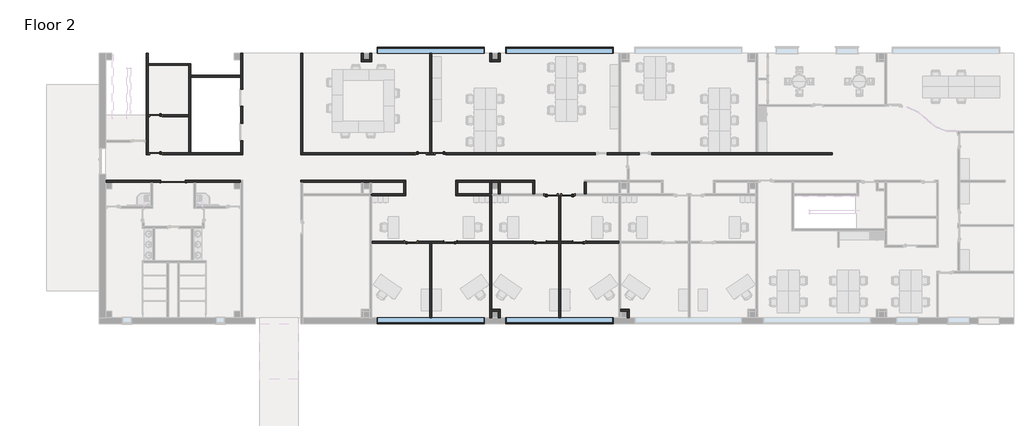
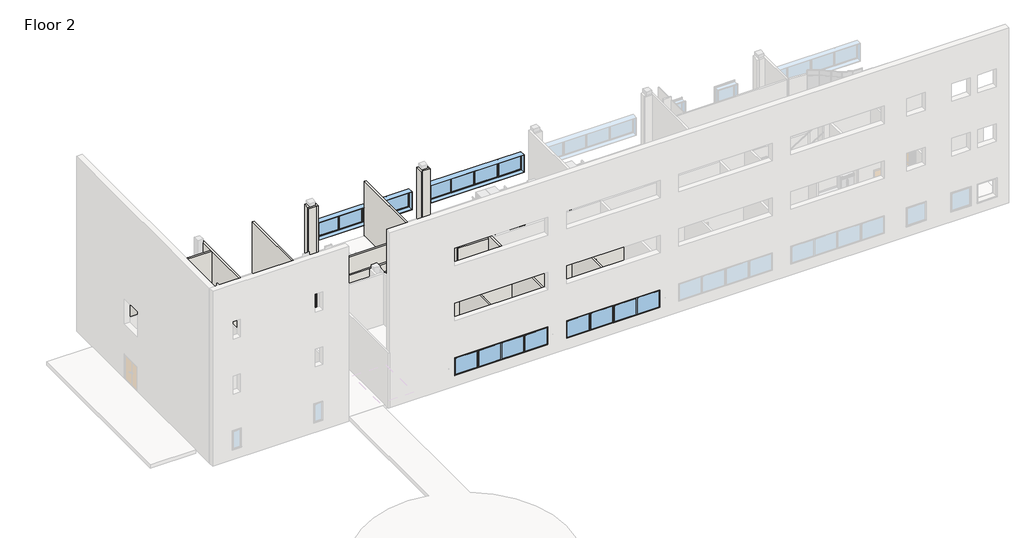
# One storey, part 2 of 7: 38 walls, 11 doors, 4 windows.
"""IFC4 building model written with IfcOpenShell, lengths in millimetres."""

from ifc_helpers import new_model, si_unit, frame, origin, place, context, project, spatial, polyline, outline, extrude, faceted_brep, transform, mapped, element, save
from components import door_f1125a27, door_36f17018, door_a28de425, door_874065d5, door_4cfbdd5f, door_4a7c4c71, window_casement_multi_sash_horizontal_25_x_5ft_0e5d08e3

model = new_model("IFC4")

# Units and contexts
model_context = context("Model", 3, world=origin())
ifc_project = project(units=[si_unit("LENGTHUNIT", "METRE", prefix="MILLI")], contexts=[model_context])

# Site, building, storey
site = spatial("IfcSite", under=ifc_project)
building = spatial("IfcBuilding", under=site)
storey = spatial("IfcBuildingStorey", under=building, Name="Floor 2", Elevation=5486.4)

# Doors
placement = place(None, origin())
door_shape = door_f1125a27(model_context)
element("IfcDoor", 1, ObjectType="Dbl Acting Dbl Glass 1 : 68\" x 84\"", at=placement, inside=storey, context=model_context, shape_type="MappedRepresentation", body=[
    mapped(door_shape, transform((1836.7692024, 48316.361889, 5486.4), x_axis=(-1.0, 0.0, 0.0), y_axis=(0.0, -1.0, 0.0), z_axis=(0.0, 0.0, 1.0))),
])
door_2_shape = door_36f17018(model_context)
element("IfcDoor", 2, ObjectType="Door-Passage-Single-Flush : 36\" x 84\"", at=placement, inside=storey, context=model_context, shape_type="MappedRepresentation", body=[
    mapped(door_2_shape, transform((617.5692024, 50253.111889, 5486.4), x_axis=(-1.0, 0.0, 0.0), y_axis=(0.0, -1.0, 0.0), z_axis=(0.0, 0.0, 1.0))),
])
element("IfcDoor", 3, ObjectType="Door-Passage-Single-Flush : 36\" x 84\"", at=placement, inside=storey, context=model_context, shape_type="MappedRepresentation", body=[
    mapped(door_2_shape, transform((617.5692024, 52945.511889, 5486.4), x_axis=(-1.0, 0.0, 0.0), y_axis=(0.0, -1.0, 0.0), z_axis=(0.0, 0.0, 1.0))),
])
door_3_shape = door_a28de425(model_context)
element("IfcDoor", 4, ObjectType="Door-Passage-Single-Full_Lite : 30\" x 84\"", at=placement, inside=storey, context=model_context, shape_type="MappedRepresentation", body=[
    mapped(door_3_shape, transform((20810.5692024, 50253.111889, 5486.4), x_axis=(-1.0, 0.0, 0.0), y_axis=(0.0, -1.0, 0.0), z_axis=(0.0, 0.0, 1.0))),
])
door_4_shape = door_874065d5(model_context)
element("IfcDoor", 5, ObjectType="Door-Passage-Single-Full_Lite : 30\" x 84\"", at=placement, inside=storey, context=model_context, shape_type="MappedRepresentation", body=[
    mapped(door_4_shape, transform((19438.9692024, 50253.111889, 5486.4), x_axis=(1.0, 0.0, 0.0), y_axis=(0.0, 1.0, 0.0), z_axis=(0.0, 0.0, 1.0))),
])
door_5_shape = door_4cfbdd5f(model_context)
element("IfcDoor", 6, ObjectType="Door-Passage-Single-Full_Lite : 36\" x 84\"", at=placement, inside=storey, context=model_context, shape_type="MappedRepresentation", body=[
    mapped(door_5_shape, transform((27871.7692024, 43985.661889, 5486.4), x_axis=(1.0, 0.0, 0.0), y_axis=(0.0, 1.0, 0.0), z_axis=(0.0, 0.0, 1.0))),
])
element("IfcDoor", 7, ObjectType="Door-Passage-Single-Full_Lite : 36\" x 84\"", at=placement, inside=storey, context=model_context, shape_type="MappedRepresentation", body=[
    mapped(door_5_shape, transform((18727.7692024, 43985.661889, 5486.4), x_axis=(1.0, 0.0, 0.0), y_axis=(0.0, 1.0, 0.0), z_axis=(0.0, 0.0, 1.0))),
])
element("IfcDoor", 8, ObjectType="Door-Passage-Single-Full_Lite : 36\" x 84\"", at=placement, inside=storey, context=model_context, shape_type="MappedRepresentation", body=[
    mapped(door_5_shape, transform((28659.1692024, 47338.461889, 5486.4), x_axis=(1.0, 0.0, 0.0), y_axis=(0.0, 1.0, 0.0), z_axis=(0.0, 0.0, 1.0))),
])
door_6_shape = door_4a7c4c71(model_context)
element("IfcDoor", 9, ObjectType="Door-Passage-Single-Full_Lite : 36\" x 84\"", at=placement, inside=storey, context=model_context, shape_type="MappedRepresentation", body=[
    mapped(door_6_shape, transform((30665.7692024, 43985.661889, 5486.4), x_axis=(-1.0, 0.0, 0.0), y_axis=(0.0, -1.0, 0.0), z_axis=(0.0, 0.0, 1.0))),
])
element("IfcDoor", 10, ObjectType="Door-Passage-Single-Full_Lite : 36\" x 84\"", at=placement, inside=storey, context=model_context, shape_type="MappedRepresentation", body=[
    mapped(door_6_shape, transform((21521.7692024, 43985.661889, 5486.4), x_axis=(-1.0, 0.0, 0.0), y_axis=(0.0, -1.0, 0.0), z_axis=(0.0, 0.0, 1.0))),
])
element("IfcDoor", 11, ObjectType="Door-Passage-Single-Full_Lite : 36\" x 84\"", at=placement, inside=storey, context=model_context, shape_type="MappedRepresentation", body=[
    mapped(door_6_shape, transform((29878.3692024, 47338.461889, 5486.4), x_axis=(-1.0, 0.0, 0.0), y_axis=(0.0, -1.0, 0.0), z_axis=(0.0, 0.0, 1.0))),
])

# Walls
element("IfcWall", 12, ObjectType="Interior - 5 1/2\" Partition (1-hr)", at=placement, inside=storey, context=model_context, shape_type="Brep", body=[
    faceted_brep([(973.1692024, 48360.811889, 7620.0), (973.1692024, 48360.811889, 5486.4), (-2965.7977165, 48360.811889, 5486.4), (-2965.7977165, 48360.811889, 9906.0), (6637.3692024, 48360.811889, 9906.0), (6637.3692024, 48360.811889, 5486.4), (2700.3692024, 48360.811889, 5486.4), (2700.3692024, 48360.811889, 7620.0), (-2965.7977165, 48221.111889, 5486.4), (242.9192024, 48221.111889, 5486.4), (382.6192024, 48221.111889, 5486.4), (973.1692024, 48221.111889, 5486.4), (973.1692024, 48221.111889, 7620.0), (2700.3692024, 48221.111889, 7620.0), (2700.3692024, 48221.111889, 5486.4), (3290.9192024, 48221.111889, 5486.4), (3430.6192024, 48221.111889, 5486.4), (6637.3692024, 48221.111889, 5486.4), (6637.3692024, 48221.111889, 9906.0), (3430.6192024, 48221.111889, 9906.0), (3290.9192024, 48221.111889, 9906.0), (382.6192024, 48221.111889, 9906.0), (242.9192024, 48221.111889, 9906.0), (-2965.7977165, 48221.111889, 9906.0)], [[[0, 1, 2, 3, 4, 5, 6, 7]], [[8, 9, 10, 11, 12, 13, 14, 15, 16, 17, 18, 19, 20, 21, 22, 23]], [[2, 1, 11, 10, 9, 8]], [[6, 5, 17, 16, 15, 14]], [[5, 4, 18, 17]], [[3, 2, 8, 23]], [[4, 3, 23, 22, 21, 20, 19, 18]], [[12, 11, 1, 0]], [[13, 12, 0, 7]], [[14, 13, 7, 6]]]),
])
element("IfcWall", 13, ObjectType="Interior - 5 1/2\" Partition (1-hr)", at=placement, inside=storey, context=model_context, shape_type="Brep", body=[
    faceted_brep([(6637.3692024, 53605.911889, 7645.4), (6637.3692024, 53605.911889, 5486.4), (6637.3692024, 52399.411889, 5486.4), (6637.3692024, 52399.411889, 7645.4), (6637.3692024, 51167.511889, 7645.4), (6637.3692024, 51167.511889, 5486.4), (6637.3692024, 50329.311889, 5486.4), (6637.3692024, 50189.611889, 5486.4), (6637.3692024, 50189.611889, 9906.0), (6637.3692024, 50329.311889, 9906.0), (6637.3692024, 55676.011889, 9906.0), (6637.3692024, 55815.711889, 9906.0), (6637.3692024, 57366.699389, 9906.0), (6637.3692024, 57366.699389, 5486.4), (6637.3692024, 55815.711889, 5486.4), (6637.3692024, 55676.011889, 5486.4), (6637.3692024, 54837.811889, 5486.4), (6637.3692024, 54837.811889, 7645.4), (6777.0692024, 52399.411889, 5486.4), (6777.0692024, 53605.911889, 5486.4), (6777.0692024, 53605.911889, 7645.4), (6777.0692024, 54837.811889, 7645.4), (6777.0692024, 54837.811889, 5486.4), (6777.0692024, 57366.699389, 5486.4), (6777.0692024, 57366.699389, 9906.0), (6777.0692024, 50189.611889, 9906.0), (6777.0692024, 50189.611889, 5486.4), (6777.0692024, 51167.511889, 5486.4), (6777.0692024, 51167.511889, 7645.4), (6777.0692024, 52399.411889, 7645.4)], [[[0, 1, 2, 3, 4, 5, 6, 7, 8, 9, 10, 11, 12, 13, 14, 15, 16, 17]], [[18, 19, 20, 21, 22, 23, 24, 25, 26, 27, 28, 29]], [[7, 6, 5, 27, 26]], [[2, 1, 19, 18]], [[16, 15, 14, 13, 23, 22]], [[8, 7, 26, 25]], [[13, 12, 24, 23]], [[12, 11, 10, 9, 8, 25, 24]], [[28, 27, 5, 4]], [[29, 28, 4, 3]], [[18, 29, 3, 2]], [[20, 19, 1, 0]], [[21, 20, 0, 17]], [[22, 21, 17, 16]]]),
])
element("IfcWall", 14, ObjectType="Interior - 5 1/2\" Partition (1-hr)", at=placement, inside=storey, context=model_context, shape_type="Brep", body=[
    faceted_brep([(109.5692024, 50329.311889, 7721.6), (109.5692024, 50329.311889, 5486.4), (77.8192024, 50329.311889, 5486.4), (-61.8807976, 50329.311889, 5486.4), (-61.8807976, 50329.311889, 9906.0), (77.8192024, 50329.311889, 9906.0), (2954.3692024, 50329.311889, 9906.0), (3094.0692024, 50329.311889, 9906.0), (6637.3692024, 50329.311889, 9906.0), (6637.3692024, 50329.311889, 5486.4), (3094.0692024, 50329.311889, 5486.4), (2954.3692024, 50329.311889, 5486.4), (1125.5692024, 50329.311889, 5486.4), (1125.5692024, 50329.311889, 7721.6), (-61.8807976, 50189.611889, 5486.4), (109.5692024, 50189.611889, 5486.4), (109.5692024, 50189.611889, 7721.6), (1125.5692024, 50189.611889, 7721.6), (1125.5692024, 50189.611889, 5486.4), (6637.3692024, 50189.611889, 5486.4), (6637.3692024, 50189.611889, 9906.0), (-61.8807976, 50189.611889, 9906.0)], [[[0, 1, 2, 3, 4, 5, 6, 7, 8, 9, 10, 11, 12, 13]], [[14, 15, 16, 17, 18, 19, 20, 21]], [[3, 2, 1, 15, 14]], [[12, 11, 10, 9, 19, 18]], [[9, 8, 20, 19]], [[4, 3, 14, 21]], [[8, 7, 6, 5, 4, 21, 20]], [[16, 15, 1, 0]], [[17, 16, 0, 13]], [[18, 17, 13, 12]]]),
])
element("IfcWall", 15, ObjectType="Interior - 5 1/2\" Partition (1-hr)", at=placement, inside=storey, context=model_context, shape_type="Brep", body=[
    faceted_brep([(77.8192024, 50329.311889, 5486.4), (77.8192024, 52882.011889, 5486.4), (77.8192024, 53021.711889, 5486.4), (77.8192024, 56514.211889, 5486.4), (77.8192024, 56653.911889, 5486.4), (77.8192024, 57366.699389, 5486.4), (77.8192024, 57366.699389, 9906.0), (77.8192024, 56653.911889, 9906.0), (77.8192024, 56514.211889, 9906.0), (77.8192024, 53021.711889, 9906.0), (77.8192024, 52882.011889, 9906.0), (77.8192024, 50329.311889, 9906.0), (-61.8807976, 50329.311889, 5486.4), (-61.8807976, 50329.311889, 9906.0), (-61.8807976, 52970.911889, 9906.0), (-61.8807976, 56653.911889, 9906.0), (-61.8807976, 57366.699389, 9906.0), (-61.8807976, 57366.699389, 5486.4), (-61.8807976, 51192.911889, 5486.4), (-61.8807976, 51053.211889, 5486.4)], [[[0, 1, 2, 3, 4, 5, 6, 7, 8, 9, 10, 11]], [[12, 13, 14, 15, 16, 17, 18, 19]], [[5, 4, 3, 2, 1, 0, 12, 19, 18, 17]], [[0, 11, 13, 12]], [[6, 5, 17, 16]], [[7, 6, 16, 15]], [[11, 10, 9, 8, 7, 15, 14, 13]]]),
])
element("IfcWall", 16, ObjectType="Interior - 5 1/2\" Partition (1-hr)", at=placement, inside=storey, context=model_context, shape_type="Brep", body=[
    faceted_brep([(3094.0692024, 50329.311889, 5486.4), (3094.0692024, 55676.011889, 5486.4), (3094.0692024, 55815.711889, 5486.4), (3094.0692024, 56653.911889, 5486.4), (3094.0692024, 56653.911889, 9906.0), (3094.0692024, 55815.711889, 9906.0), (3094.0692024, 55676.011889, 9906.0), (3094.0692024, 50329.311889, 9906.0), (2954.3692024, 50329.311889, 5486.4), (2954.3692024, 50329.311889, 9906.0), (2954.3692024, 52882.011889, 9906.0), (2954.3692024, 53021.711889, 9906.0), (2954.3692024, 56514.211889, 9906.0), (2954.3692024, 56653.911889, 9906.0), (2954.3692024, 56653.911889, 5486.4), (2954.3692024, 56514.211889, 5486.4), (2954.3692024, 53021.711889, 5486.4), (2954.3692024, 52882.011889, 5486.4)], [[[0, 1, 2, 3, 4, 5, 6, 7]], [[8, 9, 10, 11, 12, 13, 14, 15, 16, 17]], [[3, 2, 1, 0, 8, 17, 16, 15, 14]], [[4, 3, 14, 13]], [[0, 7, 9, 8]], [[7, 6, 5, 4, 13, 12, 11, 10, 9]]]),
])
element("IfcWall", 17, ObjectType="Interior - 5 1/2\" Partition (1-hr)", at=placement, inside=storey, context=model_context, shape_type="SweptSolid", body=[
    extrude(outline(polyline([(77.8192024, 56653.911889), (2954.3692024, 56653.911889), (2954.3692024, 56514.211889), (77.8192024, 56514.211889), (77.8192024, 56653.911889)])), frame((0.0, 0.0, 5486.4), z_axis=(0.0, 0.0, 1.0), x_axis=(1.0, 0.0, 0.0)), (0.0, 0.0, 1.0), 4419.6),
])
element("IfcWall", 18, ObjectType="Interior - 5 1/2\" Partition (1-hr)", at=placement, inside=storey, context=model_context, shape_type="SweptSolid", body=[
    extrude(outline(polyline([(6637.3692024, 55676.011889), (3094.0692024, 55676.011889), (3094.0692024, 55815.711889), (6637.3692024, 55815.711889), (6637.3692024, 55676.011889)])), frame((0.0, 0.0, 5486.4), z_axis=(0.0, 0.0, 1.0), x_axis=(1.0, 0.0, 0.0)), (0.0, 0.0, 1.0), 4419.6),
])
element("IfcWall", 19, ObjectType="Interior - 5 1/2\" Partition (1-hr)", at=placement, inside=storey, context=model_context, shape_type="SweptSolid", body=[
    extrude(outline(polyline([(5486.4, 77.8192024), (5486.4, 109.5692024), (7721.6, 109.5692024), (7721.6, 1125.5692024), (5486.4, 1125.5692024), (5486.4, 2954.3692024), (9906.0, 2954.3692024), (9906.0, 77.8192024), (5486.4, 77.8192024)])), frame((0.0, 52882.011889, 0.0), z_axis=(0.0, 1.0, 0.0), x_axis=(0.0, 0.0, 1.0)), (0.0, 0.0, 1.0), 139.7),
])
element("IfcWall", 20, ObjectType="Interior - 5 1/2\" Partition (1-hr)", at=placement, inside=storey, context=model_context, shape_type="Brep", body=[
    faceted_brep([(10910.9192024, 48360.811889, 5486.4), (10910.9192024, 48360.811889, 9906.0), (18359.4692024, 48360.811889, 9906.0), (18359.4692024, 48360.811889, 5486.4), (10910.9192024, 48221.111889, 5486.4), (11050.6192024, 48221.111889, 5486.4), (15184.4692024, 48221.111889, 5486.4), (15324.1692024, 48221.111889, 5486.4), (15781.3692024, 48221.111889, 5486.4), (15921.0692024, 48221.111889, 5486.4), (18219.7692024, 48221.111889, 5486.4), (18359.4692024, 48221.111889, 5486.4), (18359.4692024, 48221.111889, 9906.0), (18219.7692024, 48221.111889, 9906.0), (15921.0692024, 48221.111889, 9906.0), (15781.3692024, 48221.111889, 9906.0), (15324.1692024, 48221.111889, 9906.0), (15184.4692024, 48221.111889, 9906.0), (10910.9192024, 48221.111889, 9906.0)], [[[0, 1, 2, 3]], [[4, 5, 6, 7, 8, 9, 10, 11, 12, 13, 14, 15, 16, 17, 18]], [[11, 10, 9, 8, 7, 6, 5, 4, 0, 3]], [[4, 18, 1, 0]], [[18, 17, 16, 15, 14, 13, 12, 2, 1]], [[12, 11, 3, 2]]]),
])
element("IfcWall", 21, ObjectType="Interior - 5 1/2\" Partition (1-hr)", at=placement, inside=storey, context=model_context, shape_type="Brep", body=[
    faceted_brep([(48623.5692024, 50189.611889, 9906.0), (48623.5692024, 50189.611889, 5486.4), (48623.5692024, 50329.311889, 5486.4), (48623.5692024, 50329.311889, 9906.0), (43353.0692024, 50329.311889, 5486.4), (43213.3692024, 50329.311889, 5486.4), (35802.9192024, 50329.311889, 5486.4), (35802.9192024, 50329.311889, 7721.6), (34939.3192024, 50329.311889, 7721.6), (34939.3192024, 50329.311889, 5486.4), (33612.1692024, 50329.311889, 5486.4), (33472.4692024, 50329.311889, 5486.4), (32672.3692024, 50329.311889, 5486.4), (32672.3692024, 50329.311889, 7721.6), (31808.7692024, 50329.311889, 7721.6), (31808.7692024, 50329.311889, 5486.4), (21242.3692024, 50329.311889, 5486.4), (21242.3692024, 50329.311889, 7721.6), (20378.7692024, 50329.311889, 7721.6), (20378.7692024, 50329.311889, 5486.4), (20194.6192024, 50329.311889, 5486.4), (20054.9192024, 50329.311889, 5486.4), (19870.7692024, 50329.311889, 5486.4), (19870.7692024, 50329.311889, 7721.6), (19007.1692024, 50329.311889, 7721.6), (19007.1692024, 50329.311889, 5486.4), (11050.6192024, 50329.311889, 5486.4), (10910.9192024, 50329.311889, 5486.4), (10910.9192024, 50329.311889, 9906.0), (11050.6192024, 50329.311889, 9906.0), (33472.4692024, 50329.311889, 9906.0), (33612.1692024, 50329.311889, 9906.0), (43213.3692024, 50329.311889, 9906.0), (43353.0692024, 50329.311889, 9906.0), (34209.0692024, 50189.611889, 9906.0), (34069.3692024, 50189.611889, 9906.0), (10910.9192024, 50189.611889, 9906.0), (10910.9192024, 50189.611889, 5486.4), (19007.1692024, 50189.611889, 5486.4), (19007.1692024, 50189.611889, 7721.6), (19870.7692024, 50189.611889, 7721.6), (19870.7692024, 50189.611889, 5486.4), (20378.7692024, 50189.611889, 5486.4), (20378.7692024, 50189.611889, 7721.6), (21242.3692024, 50189.611889, 7721.6), (21242.3692024, 50189.611889, 5486.4), (31808.7692024, 50189.611889, 5486.4), (31808.7692024, 50189.611889, 7721.6), (32672.3692024, 50189.611889, 7721.6), (32672.3692024, 50189.611889, 5486.4), (34069.3692024, 50189.611889, 5486.4), (34209.0692024, 50189.611889, 5486.4), (34939.3192024, 50189.611889, 5486.4), (34939.3192024, 50189.611889, 7721.6), (35802.9192024, 50189.611889, 7721.6), (35802.9192024, 50189.611889, 5486.4)], [[[0, 1, 2, 3]], [[3, 2, 4, 5, 6, 7, 8, 9, 10, 11, 12, 13, 14, 15, 16, 17, 18, 19, 20, 21, 22, 23, 24, 25, 26, 27, 28, 29, 30, 31, 32, 33]], [[1, 0, 34, 35, 36, 37, 38, 39, 40, 41, 42, 43, 44, 45, 46, 47, 48, 49, 50, 51, 52, 53, 54, 55]], [[2, 1, 55, 6, 5, 4]], [[37, 27, 26, 25, 38]], [[9, 52, 51, 50, 49, 12, 11, 10]], [[41, 22, 21, 20, 19, 42]], [[45, 16, 15, 46]], [[37, 36, 28, 27]], [[36, 35, 34, 0, 3, 33, 32, 31, 30, 29, 28]], [[8, 53, 52, 9]], [[53, 8, 7, 54]], [[54, 7, 6, 55]], [[40, 23, 22, 41]], [[23, 40, 39, 24]], [[24, 39, 38, 25]], [[18, 43, 42, 19]], [[43, 18, 17, 44]], [[44, 17, 16, 45]], [[48, 13, 12, 49]], [[13, 48, 47, 14]], [[14, 47, 46, 15]]]),
])
element("IfcWall", 22, ObjectType="Interior - 5 1/2\" Partition (1-hr)", at=placement, inside=storey, context=model_context, shape_type="SweptSolid", body=[
    extrude(outline(polyline([(11050.6192024, 57366.699389), (11050.6192024, 50329.311889), (10910.9192024, 50329.311889), (10910.9192024, 57366.699389), (11050.6192024, 57366.699389)])), frame((0.0, 0.0, 5486.4), z_axis=(0.0, 0.0, 1.0), x_axis=(1.0, 0.0, 0.0)), (0.0, 0.0, 1.0), 4419.6),
])
element("IfcWall", 23, ObjectType="Interior - 5 1/2\" Partition (1-hr)", at=placement, inside=storey, context=model_context, shape_type="Brep", body=[
    faceted_brep([(15781.3692024, 57366.699389, 5486.4), (15781.3692024, 57365.111889, 5486.4), (15781.3692024, 56907.911889, 5486.4), (15781.3692024, 56768.211889, 5486.4), (15781.3692024, 56768.211889, 9906.0), (15781.3692024, 56907.911889, 9906.0), (15781.3692024, 57366.699389, 9906.0), (15921.0692024, 57366.699389, 5486.4), (15921.0692024, 57366.699389, 9906.0), (15921.0692024, 56768.211889, 9906.0), (15921.0692024, 56768.211889, 5486.4)], [[[0, 1, 2, 3, 4, 5, 6]], [[7, 8, 9, 10]], [[3, 2, 1, 0, 7, 10]], [[4, 3, 10, 9]], [[0, 6, 8, 7]], [[6, 5, 4, 9, 8]]]),
])
element("IfcWall", 24, ObjectType="Interior - 5 1/2\" Partition (1-hr)", at=placement, inside=storey, context=model_context, shape_type="Brep", body=[
    faceted_brep([(15781.3692024, 56907.911889, 5486.4), (15324.1692024, 56907.911889, 5486.4), (15184.4692024, 56907.911889, 5486.4), (15184.4692024, 56907.911889, 9906.0), (15324.1692024, 56907.911889, 9906.0), (15781.3692024, 56907.911889, 9906.0), (15781.3692024, 56768.211889, 5486.4), (15781.3692024, 56768.211889, 9906.0), (15184.4692024, 56768.211889, 9906.0), (15184.4692024, 56768.211889, 5486.4)], [[[0, 1, 2, 3, 4, 5]], [[6, 7, 8, 9]], [[2, 1, 0, 6, 9]], [[3, 2, 9, 8]], [[0, 5, 7, 6]], [[5, 4, 3, 8, 7]]]),
])
element("IfcWall", 25, ObjectType="Interior - 5 1/2\" Partition (1-hr)", at=placement, inside=storey, context=model_context, shape_type="Brep", body=[
    faceted_brep([(15324.1692024, 56907.911889, 5486.4), (15324.1692024, 57365.111889, 5486.4), (15324.1692024, 57366.699389, 5486.4), (15324.1692024, 57366.699389, 9906.0), (15324.1692024, 56907.911889, 9906.0), (15184.4692024, 56907.911889, 5486.4), (15184.4692024, 56907.911889, 9906.0), (15184.4692024, 57366.699389, 9906.0), (15184.4692024, 57366.699389, 5486.4)], [[[0, 1, 2, 3, 4]], [[5, 6, 7, 8]], [[2, 1, 0, 5, 8]], [[0, 4, 6, 5]], [[3, 2, 8, 7]], [[4, 3, 7, 6]]]),
])
element("IfcWall", 26, ObjectType="Interior - 5 1/2\" Partition (1-hr)", at=placement, inside=storey, context=model_context, shape_type="Brep", body=[
    faceted_brep([(24468.1692024, 47401.961889, 5486.4), (24468.1692024, 47763.911889, 5486.4), (24468.1692024, 48221.111889, 5486.4), (24468.1692024, 48221.111889, 9906.0), (24468.1692024, 47401.961889, 9906.0), (24328.4692024, 47401.961889, 5486.4), (24328.4692024, 47401.961889, 9906.0), (24328.4692024, 48221.111889, 9906.0), (24328.4692024, 48221.111889, 5486.4), (24398.3192024, 47401.961889, 5486.4), (24398.3192024, 47401.961889, 9906.0)], [[[0, 1, 2, 3, 4]], [[5, 6, 7, 8]], [[2, 1, 0, 9, 5, 8]], [[0, 4, 10, 6, 5, 9]], [[3, 2, 8, 7]], [[4, 3, 7, 6, 10]]]),
])
element("IfcWall", 27, ObjectType="Interior - 5 1/2\" Partition (1-hr)", at=placement, inside=storey, context=model_context, shape_type="Brep", body=[
    faceted_brep([(25065.0692024, 47401.961889, 5486.4), (25065.0692024, 48221.111889, 5486.4), (25065.0692024, 48221.111889, 9906.0), (25065.0692024, 47401.961889, 9906.0), (24925.3692024, 47401.961889, 5486.4), (24925.3692024, 47401.961889, 9906.0), (24925.3692024, 48221.111889, 9906.0), (24925.3692024, 48221.111889, 5486.4), (24925.3692024, 47763.911889, 5486.4)], [[[0, 1, 2, 3]], [[4, 5, 6, 7, 8]], [[1, 0, 4, 8, 7]], [[0, 3, 5, 4]], [[2, 1, 7, 6]], [[3, 2, 6, 5]]]),
])
element("IfcWall", 28, ObjectType="Interior - 5 1/2\" Partition (1-hr)", at=placement, inside=storey, context=model_context, shape_type="SweptSolid", body=[
    extrude(outline(polyline([(18359.4692024, 48221.111889), (18359.4692024, 47401.961889), (18219.7692024, 47401.961889), (18219.7692024, 48221.111889), (18359.4692024, 48221.111889)])), frame((0.0, 0.0, 5486.4), z_axis=(0.0, 0.0, 1.0), x_axis=(1.0, 0.0, 0.0)), (0.0, 0.0, 1.0), 4419.6),
])
element("IfcWall", 29, ObjectType="Interior - 5 1/2\" Partition (1-hr)", at=placement, inside=storey, context=model_context, shape_type="SweptSolid", body=[
    extrude(outline(polyline([(22029.7692024, 48221.111889), (22029.7692024, 47401.961889), (21890.0692024, 47401.961889), (21890.0692024, 48221.111889), (22029.7692024, 48221.111889)])), frame((0.0, 0.0, 5486.4), z_axis=(0.0, 0.0, 1.0), x_axis=(1.0, 0.0, 0.0)), (0.0, 0.0, 1.0), 4419.6),
])
element("IfcWall", 30, ObjectType="Interior - 5 1/2\" Partition (1-hr)", at=placement, inside=storey, context=model_context, shape_type="SweptSolid", body=[
    extrude(outline(polyline([(27503.4692024, 48221.111889), (27503.4692024, 47401.961889), (27363.7692024, 47401.961889), (27363.7692024, 48221.111889), (27503.4692024, 48221.111889)])), frame((0.0, 0.0, 5486.4), z_axis=(0.0, 0.0, 1.0), x_axis=(1.0, 0.0, 0.0)), (0.0, 0.0, 1.0), 4419.6),
])
element("IfcWall", 31, ObjectType="Interior - 5 1/2\" Partition (1-hr)", at=placement, inside=storey, context=model_context, shape_type="SweptSolid", body=[
    extrude(outline(polyline([(31173.7692024, 48221.111889), (31173.7692024, 47401.961889), (31034.0692024, 47401.961889), (31034.0692024, 48221.111889), (31173.7692024, 48221.111889)])), frame((0.0, 0.0, 5486.4), z_axis=(0.0, 0.0, 1.0), x_axis=(1.0, 0.0, 0.0)), (0.0, 0.0, 1.0), 4419.6),
])
element("IfcWall", 32, ObjectType="Interior - 5 1/2\" Partition (1-hr)", at=placement, inside=storey, context=model_context, shape_type="Brep", body=[
    faceted_brep([(33612.1692024, 39077.111889, 5486.4), (34069.3692024, 39077.111889, 5486.4), (34209.0692024, 39077.111889, 5486.4), (34209.0692024, 39077.111889, 9906.0), (34069.3692024, 39077.111889, 9906.0), (33612.1692024, 39077.111889, 9906.0), (33612.1692024, 39216.811889, 5486.4), (33612.1692024, 39216.811889, 9906.0), (34209.0692024, 39216.811889, 9906.0), (34209.0692024, 39216.811889, 5486.4)], [[[0, 1, 2, 3, 4, 5]], [[6, 7, 8, 9]], [[2, 1, 0, 6, 9]], [[3, 2, 9, 8]], [[0, 5, 7, 6]], [[5, 4, 3, 8, 7]]]),
])
element("IfcWall", 33, ObjectType="Interior - 5 1/2\" Partition (1-hr)", at=placement, inside=storey, context=model_context, shape_type="Brep", body=[
    faceted_brep([(34069.3692024, 39077.111889, 5486.4), (34069.3692024, 38619.911889, 5486.4), (34069.3692024, 38618.324389, 5486.4), (34069.3692024, 38618.324389, 9906.0), (34069.3692024, 39077.111889, 9906.0), (34209.0692024, 39077.111889, 5486.4), (34209.0692024, 39077.111889, 9906.0), (34209.0692024, 38618.324389, 9906.0), (34209.0692024, 38618.324389, 5486.4)], [[[0, 1, 2, 3, 4]], [[5, 6, 7, 8]], [[2, 1, 0, 5, 8]], [[0, 4, 6, 5]], [[3, 2, 8, 7]], [[4, 3, 7, 6]]]),
])
element("IfcWall", 34, ObjectType="Interior - 5 1/2\" Partition (1-hr)", at=placement, inside=storey, context=model_context, shape_type="Brep", body=[
    faceted_brep([(24468.1692024, 38618.324389, 5486.4), (24468.1692024, 38619.911889, 5486.4), (24468.1692024, 39077.111889, 5486.4), (24468.1692024, 39216.811889, 5486.4), (24468.1692024, 39216.811889, 9906.0), (24468.1692024, 39077.111889, 9906.0), (24468.1692024, 38618.324389, 9906.0), (24328.4692024, 38618.324389, 5486.4), (24328.4692024, 38618.324389, 9906.0), (24328.4692024, 39216.811889, 9906.0), (24328.4692024, 39216.811889, 5486.4)], [[[0, 1, 2, 3, 4, 5, 6]], [[7, 8, 9, 10]], [[3, 2, 1, 0, 7, 10]], [[4, 3, 10, 9]], [[0, 6, 8, 7]], [[6, 5, 4, 9, 8]]]),
])
element("IfcWall", 35, ObjectType="Interior - 5 1/2\" Partition (1-hr)", at=placement, inside=storey, context=model_context, shape_type="Brep", body=[
    faceted_brep([(24468.1692024, 39077.111889, 5486.4), (24925.3692024, 39077.111889, 5486.4), (25065.0692024, 39077.111889, 5486.4), (25065.0692024, 39077.111889, 9906.0), (24925.3692024, 39077.111889, 9906.0), (24468.1692024, 39077.111889, 9906.0), (24468.1692024, 39216.811889, 5486.4), (24468.1692024, 39216.811889, 9906.0), (25065.0692024, 39216.811889, 9906.0), (25065.0692024, 39216.811889, 5486.4)], [[[0, 1, 2, 3, 4, 5]], [[6, 7, 8, 9]], [[2, 1, 0, 6, 9]], [[3, 2, 9, 8]], [[0, 5, 7, 6]], [[5, 4, 3, 8, 7]]]),
])
element("IfcWall", 36, ObjectType="Interior - 5 1/2\" Partition (1-hr)", at=placement, inside=storey, context=model_context, shape_type="Brep", body=[
    faceted_brep([(24925.3692024, 39077.111889, 5486.4), (24925.3692024, 38619.911889, 5486.4), (24925.3692024, 38618.324389, 5486.4), (24925.3692024, 38618.324389, 9906.0), (24925.3692024, 39077.111889, 9906.0), (25065.0692024, 39077.111889, 5486.4), (25065.0692024, 39077.111889, 9906.0), (25065.0692024, 38618.324389, 9906.0), (25065.0692024, 38618.324389, 5486.4)], [[[0, 1, 2, 3, 4]], [[5, 6, 7, 8]], [[2, 1, 0, 5, 8]], [[0, 4, 6, 5]], [[3, 2, 8, 7]], [[4, 3, 7, 6]]]),
])
element("IfcWall", 37, ObjectType="Interior - 5 1/2\" Partition (1-hr)", at=placement, inside=storey, context=model_context, shape_type="Brep", body=[
    faceted_brep([(24328.4692024, 57366.699389, 5486.4), (24328.4692024, 56768.211889, 5486.4), (24328.4692024, 56768.211889, 9906.0), (24328.4692024, 57366.699389, 9906.0), (24468.1692024, 57366.699389, 5486.4), (24468.1692024, 57366.699389, 9906.0), (24468.1692024, 56907.911889, 9906.0), (24468.1692024, 56768.211889, 9906.0), (24468.1692024, 56768.211889, 5486.4), (24468.1692024, 56907.911889, 5486.4), (24468.1692024, 57365.111889, 5486.4)], [[[0, 1, 2, 3]], [[4, 5, 6, 7, 8, 9, 10]], [[1, 0, 4, 10, 9, 8]], [[2, 1, 8, 7]], [[0, 3, 5, 4]], [[3, 2, 7, 6, 5]]]),
])
element("IfcWall", 38, ObjectType="Interior - 5 1/2\" Partition (1-hr)", at=placement, inside=storey, context=model_context, shape_type="Brep", body=[
    faceted_brep([(24468.1692024, 56768.211889, 5486.4), (25065.0692024, 56768.211889, 5486.4), (25065.0692024, 56768.211889, 9906.0), (24468.1692024, 56768.211889, 9906.0), (24468.1692024, 56907.911889, 5486.4), (24468.1692024, 56907.911889, 9906.0), (24925.3692024, 56907.911889, 9906.0), (25065.0692024, 56907.911889, 9906.0), (25065.0692024, 56907.911889, 5486.4), (24925.3692024, 56907.911889, 5486.4)], [[[0, 1, 2, 3]], [[4, 5, 6, 7, 8, 9]], [[1, 0, 4, 9, 8]], [[2, 1, 8, 7]], [[0, 3, 5, 4]], [[3, 2, 7, 6, 5]]]),
])
element("IfcWall", 39, ObjectType="Interior - 5 1/2\" Partition (1-hr)", at=placement, inside=storey, context=model_context, shape_type="Brep", body=[
    faceted_brep([(25065.0692024, 56907.911889, 5486.4), (25065.0692024, 57366.699389, 5486.4), (25065.0692024, 57366.699389, 9906.0), (25065.0692024, 56907.911889, 9906.0), (24925.3692024, 56907.911889, 5486.4), (24925.3692024, 56907.911889, 9906.0), (24925.3692024, 57366.699389, 9906.0), (24925.3692024, 57366.699389, 5486.4), (24925.3692024, 57365.111889, 5486.4)], [[[0, 1, 2, 3]], [[4, 5, 6, 7, 8]], [[1, 0, 4, 8, 7]], [[0, 3, 5, 4]], [[2, 1, 7, 6]], [[3, 2, 6, 5]]]),
])
element("IfcWall", 40, ObjectType="Interior - 5 1/2\" Partition (1-hr)", at=placement, inside=storey, context=model_context, shape_type="Brep", body=[
    faceted_brep([(24328.4692024, 47262.261889, 10210.8), (24328.4692024, 44049.161889, 10210.8), (24328.4692024, 43909.461889, 10210.8), (24328.4692024, 39216.811889, 10210.8), (24468.1692024, 39216.811889, 10210.8), (24468.1692024, 43909.461889, 10210.8), (24468.1692024, 44049.161889, 10210.8), (24468.1692024, 47262.261889, 10210.8), (24468.1692024, 47262.261889, 5486.4), (24468.1692024, 39216.811889, 9906.0), (24468.1692024, 39216.811889, 5486.4), (24468.1692024, 43909.461889, 5486.4), (24468.1692024, 44049.161889, 5486.4), (24328.4692024, 47262.261889, 5486.4), (24328.4692024, 44049.161889, 5486.4), (24328.4692024, 43909.461889, 5486.4), (24328.4692024, 39216.811889, 5486.4), (24328.4692024, 39216.811889, 9906.0), (24398.3192024, 47262.261889, 5486.4)], [[[0, 1, 2, 3, 4, 5, 6, 7]], [[8, 7, 6, 5, 4, 9, 10, 11, 12]], [[13, 14, 15, 16, 17, 3, 2, 1, 0]], [[16, 15, 14, 13, 18, 8, 12, 11, 10]], [[13, 0, 7, 8, 18]], [[3, 17, 16, 10, 9, 4]]]),
])
element("IfcWall", 41, ObjectType="Interior - 5 1/2\" Partition (1-hr)", at=placement, inside=storey, context=model_context, shape_type="Brep", body=[
    faceted_brep([(29198.9192024, 47262.261889, 5486.4), (29198.9192024, 44049.161889, 5486.4), (29198.9192024, 43909.461889, 5486.4), (29198.9192024, 38618.324389, 5486.4), (29198.9192024, 38618.324389, 10210.8), (29198.9192024, 43909.461889, 10210.8), (29198.9192024, 44049.161889, 10210.8), (29198.9192024, 47262.261889, 10210.8), (29338.6192024, 47262.261889, 5486.4), (29338.6192024, 47262.261889, 10210.8), (29338.6192024, 44049.161889, 10210.8), (29338.6192024, 43909.461889, 10210.8), (29338.6192024, 38618.324389, 10210.8), (29338.6192024, 38618.324389, 5486.4), (29338.6192024, 43909.461889, 5486.4), (29338.6192024, 44049.161889, 5486.4)], [[[0, 1, 2, 3, 4, 5, 6, 7]], [[8, 9, 10, 11, 12, 13, 14, 15]], [[3, 2, 1, 0, 8, 15, 14, 13]], [[7, 6, 5, 4, 12, 11, 10, 9]], [[0, 7, 9, 8]], [[4, 3, 13, 12]]]),
])
element("IfcWall", 42, ObjectType="Interior - 5 1/2\" Partition (1-hr)", at=placement, inside=storey, context=model_context, shape_type="SweptSolid", body=[
    extrude(outline(polyline([(7721.6, 28379.7692024), (5486.4, 28379.7692024), (5486.4, 29198.9192024), (10210.8, 29198.9192024), (10210.8, 24468.1692024), (5486.4, 24468.1692024), (5486.4, 27363.7692024), (7721.6, 27363.7692024), (7721.6, 28379.7692024)])), frame((0.0, 43909.461889, 0.0), z_axis=(0.0, 1.0, 0.0), x_axis=(0.0, 0.0, 1.0)), (0.0, 0.0, 1.0), 139.7),
])
element("IfcWall", 43, ObjectType="Interior - 5 1/2\" Partition (1-hr)", at=placement, inside=storey, context=model_context, shape_type="SweptSolid", body=[
    extrude(outline(polyline([(5486.4, 29338.6192024), (5486.4, 30157.7692024), (7721.6, 30157.7692024), (7721.6, 31173.7692024), (5486.4, 31173.7692024), (5486.4, 33472.4692024), (10210.8, 33472.4692024), (10210.8, 29338.6192024), (5486.4, 29338.6192024)])), frame((0.0, 43909.461889, 0.0), z_axis=(0.0, 1.0, 0.0), x_axis=(0.0, 0.0, 1.0)), (0.0, 0.0, 1.0), 139.7),
])
element("IfcWall", 44, ObjectType="Interior - 5 1/2\" Partition (1-hr)", at=placement, inside=storey, context=model_context, shape_type="SweptSolid", body=[
    extrude(outline(polyline([(20194.6192024, 57366.699389), (20194.6192024, 50329.311889), (20054.9192024, 50329.311889), (20054.9192024, 57366.699389), (20194.6192024, 57366.699389)])), frame((0.0, 0.0, 5486.4), z_axis=(0.0, 0.0, 1.0), x_axis=(1.0, 0.0, 0.0)), (0.0, 0.0, 1.0), 4724.4),
])
element("IfcWall", 45, ObjectType="Interior - 5 1/2\" Partition (1-hr)", at=placement, inside=storey, context=model_context, shape_type="SweptSolid", body=[
    extrude(outline(polyline([(20054.9192024, 38618.324389), (20054.9192024, 43909.461889), (20194.6192024, 43909.461889), (20194.6192024, 38618.324389), (20054.9192024, 38618.324389)])), frame((0.0, 0.0, 5486.4), z_axis=(0.0, 0.0, 1.0), x_axis=(1.0, 0.0, 0.0)), (0.0, 0.0, 1.0), 4724.4),
])
element("IfcWall", 46, ObjectType="Interior - 5 1/2\" Partition (1-hr)", at=placement, inside=storey, context=model_context, shape_type="Brep", body=[
    faceted_brep([(15921.0692024, 43909.461889, 10210.8), (20054.9192024, 43909.461889, 10210.8), (20194.6192024, 43909.461889, 10210.8), (24328.4692024, 43909.461889, 10210.8), (24328.4692024, 44049.161889, 10210.8), (15921.0692024, 44049.161889, 10210.8), (24328.4692024, 44049.161889, 5486.4), (22029.7692024, 44049.161889, 5486.4), (22029.7692024, 44049.161889, 7721.6), (21013.7692024, 44049.161889, 7721.6), (21013.7692024, 44049.161889, 5486.4), (19235.7692024, 44049.161889, 5486.4), (19235.7692024, 44049.161889, 7721.6), (18219.7692024, 44049.161889, 7721.6), (18219.7692024, 44049.161889, 5486.4), (15921.0692024, 44049.161889, 5486.4), (15921.0692024, 43909.461889, 5486.4), (18219.7692024, 43909.461889, 5486.4), (18219.7692024, 43909.461889, 7721.6), (19235.7692024, 43909.461889, 7721.6), (19235.7692024, 43909.461889, 5486.4), (20054.9192024, 43909.461889, 5486.4), (20194.6192024, 43909.461889, 5486.4), (21013.7692024, 43909.461889, 5486.4), (21013.7692024, 43909.461889, 7721.6), (22029.7692024, 43909.461889, 7721.6), (22029.7692024, 43909.461889, 5486.4), (24328.4692024, 43909.461889, 5486.4)], [[[0, 1, 2, 3, 4, 5]], [[5, 4, 6, 7, 8, 9, 10, 11, 12, 13, 14, 15]], [[3, 2, 1, 0, 16, 17, 18, 19, 20, 21, 22, 23, 24, 25, 26, 27]], [[6, 27, 26, 7]], [[16, 15, 14, 17]], [[10, 23, 22, 21, 20, 11]], [[3, 27, 6, 4]], [[16, 0, 5, 15]], [[24, 23, 10, 9]], [[25, 24, 9, 8]], [[26, 25, 8, 7]], [[19, 12, 11, 20]], [[12, 19, 18, 13]], [[13, 18, 17, 14]]]),
])
element("IfcWall", 47, ObjectType="Interior - 5 1/2\" Partition (1-hr)", at=placement, inside=storey, context=model_context, shape_type="Brep", body=[
    faceted_brep([(15851.2192024, 47401.961889, 9906.0), (15851.2192024, 47401.961889, 5486.4), (15851.2192024, 47262.261889, 5486.4), (15851.2192024, 47262.261889, 9906.0), (18359.4692024, 47401.961889, 5486.4), (18219.7692024, 47401.961889, 5486.4), (15921.0692024, 47401.961889, 5486.4), (15921.0692024, 47401.961889, 9906.0), (18219.7692024, 47401.961889, 9906.0), (18359.4692024, 47401.961889, 9906.0), (18359.4692024, 47262.261889, 5486.4), (18359.4692024, 47262.261889, 9906.0), (15921.0692024, 47262.261889, 9906.0), (15921.0692024, 47262.261889, 5486.4)], [[[0, 1, 2, 3]], [[4, 5, 6, 1, 0, 7, 8, 9]], [[10, 11, 12, 3, 2, 13]], [[1, 6, 5, 4, 10, 13, 2]], [[9, 8, 7, 0, 3, 12, 11]], [[4, 9, 11, 10]]]),
])
element("IfcWall", 48, ObjectType="Interior - 5 1/2\" Partition (1-hr)", at=placement, inside=storey, context=model_context, shape_type="Brep", body=[
    faceted_brep([(21890.0692024, 48360.811889, 5486.4), (21890.0692024, 48360.811889, 9906.0), (27503.4692024, 48360.811889, 9906.0), (27503.4692024, 48360.811889, 5486.4), (21890.0692024, 48221.111889, 5486.4), (22029.7692024, 48221.111889, 5486.4), (24328.4692024, 48221.111889, 5486.4), (24468.1692024, 48221.111889, 5486.4), (24925.3692024, 48221.111889, 5486.4), (25065.0692024, 48221.111889, 5486.4), (27363.7692024, 48221.111889, 5486.4), (27503.4692024, 48221.111889, 5486.4), (27503.4692024, 48221.111889, 9906.0), (27363.7692024, 48221.111889, 9906.0), (25065.0692024, 48221.111889, 9906.0), (24925.3692024, 48221.111889, 9906.0), (24468.1692024, 48221.111889, 9906.0), (24328.4692024, 48221.111889, 9906.0), (22029.7692024, 48221.111889, 9906.0), (21890.0692024, 48221.111889, 9906.0)], [[[0, 1, 2, 3]], [[4, 5, 6, 7, 8, 9, 10, 11, 12, 13, 14, 15, 16, 17, 18, 19]], [[11, 10, 9, 8, 7, 6, 5, 4, 0, 3]], [[19, 18, 17, 16, 15, 14, 13, 12, 2, 1]], [[4, 19, 1, 0]], [[12, 11, 3, 2]]]),
])
element("IfcWall", 49, ObjectType="Interior - 5 1/2\" Partition (1-hr)", at=placement, inside=storey, context=model_context, shape_type="Brep", body=[
    faceted_brep([(24398.3192024, 47401.961889, 5486.4), (24398.3192024, 47401.961889, 9906.0), (24398.3192024, 47262.261889, 9906.0), (24398.3192024, 47262.261889, 5486.4), (21890.0692024, 47262.261889, 9906.0), (21890.0692024, 47262.261889, 5486.4), (24328.4692024, 47262.261889, 5486.4), (24328.4692024, 47401.961889, 5486.4), (22029.7692024, 47401.961889, 5486.4), (21890.0692024, 47401.961889, 5486.4), (21890.0692024, 47401.961889, 9906.0), (22029.7692024, 47401.961889, 9906.0), (24328.4692024, 47401.961889, 9906.0)], [[[0, 1, 2, 3]], [[3, 2, 4, 5, 6]], [[0, 7, 8, 9, 10, 11, 12, 1]], [[9, 8, 7, 0, 3, 6, 5]], [[1, 12, 11, 10, 4, 2]], [[10, 9, 5, 4]]]),
])

# Windows
window_casement_multi_sash_horizontal_25_x_5ft_shape = window_casement_multi_sash_horizontal_25_x_5ft_0e5d08e3(model_context)
element("IfcWindow", 50, ObjectType="Window-Casement-Multi-Sash-Horizontal : 25 x 5ft", at=placement, inside=storey, context=model_context, shape_type="MappedRepresentation", body=[
    mapped(window_casement_multi_sash_horizontal_25_x_5ft_shape, transform((29268.7692024, 57593.711889, 5486.4), x_axis=(1.0, 0.0, 0.0), y_axis=(0.0, 1.0, 0.0), z_axis=(0.0, 0.0, 1.0))),
])
element("IfcWindow", 51, ObjectType="Window-Casement-Multi-Sash-Horizontal : 25 x 5ft", at=placement, inside=storey, context=model_context, shape_type="MappedRepresentation", body=[
    mapped(window_casement_multi_sash_horizontal_25_x_5ft_shape, transform((20124.7692024, 57593.711889, 5486.4), x_axis=(1.0, 0.0, 0.0), y_axis=(0.0, 1.0, 0.0), z_axis=(0.0, 0.0, 1.0))),
])
element("IfcWindow", 52, ObjectType="Window-Casement-Multi-Sash-Horizontal : 25 x 5ft", at=placement, inside=storey, context=model_context, shape_type="MappedRepresentation", body=[
    mapped(window_casement_multi_sash_horizontal_25_x_5ft_shape, transform((20124.7692024, 38391.311889, 5486.4), x_axis=(-1.0, 0.0, 0.0), y_axis=(0.0, -1.0, 0.0), z_axis=(0.0, 0.0, 1.0))),
])
element("IfcWindow", 53, ObjectType="Window-Casement-Multi-Sash-Horizontal : 25 x 5ft", at=placement, inside=storey, context=model_context, shape_type="MappedRepresentation", body=[
    mapped(window_casement_multi_sash_horizontal_25_x_5ft_shape, transform((29268.7692024, 38391.311889, 5486.4), x_axis=(-1.0, 0.0, 0.0), y_axis=(0.0, -1.0, 0.0), z_axis=(0.0, 0.0, 1.0))),
])

save(model, "model.ifc")
